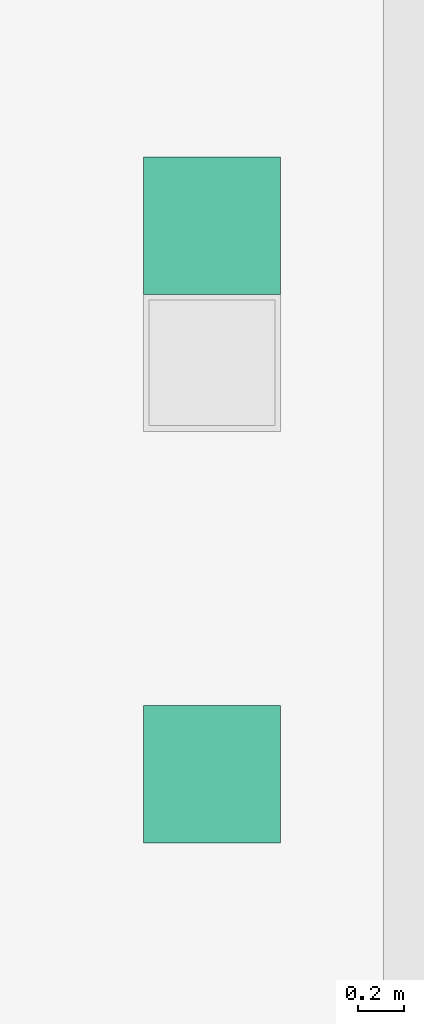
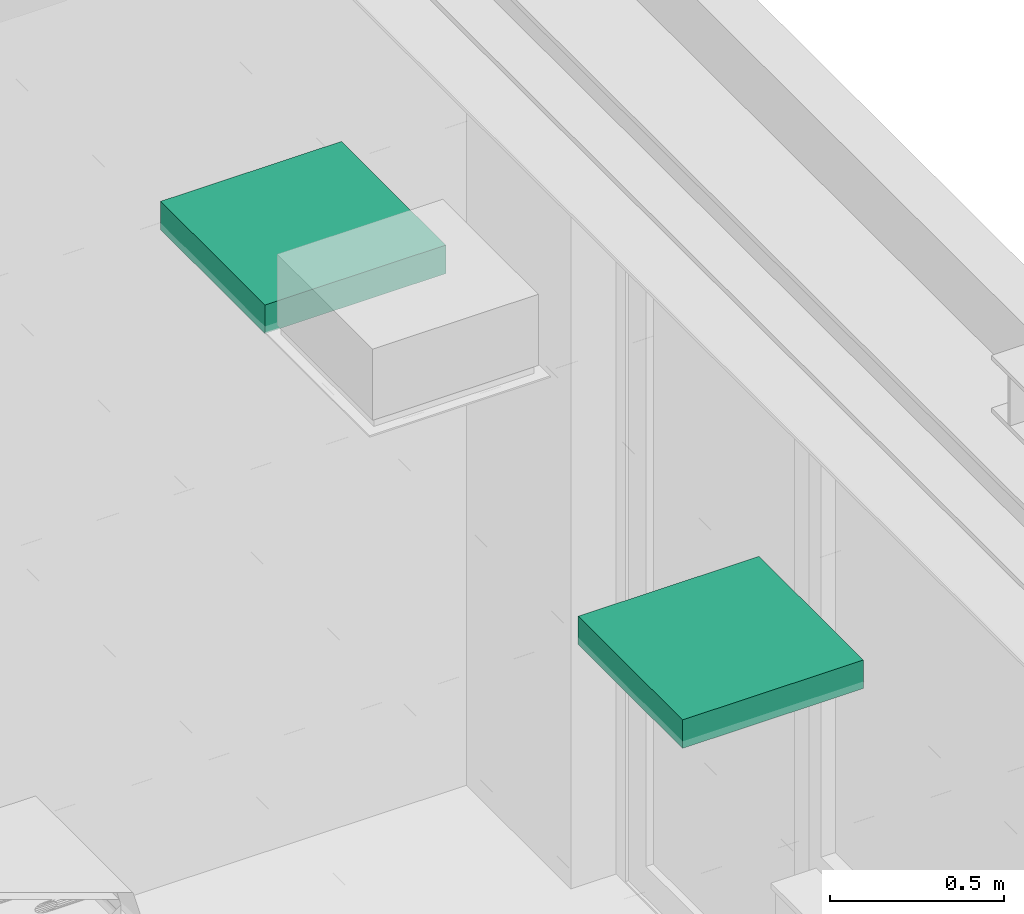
# One storey, part 273 of 347: 2 flow terminals.
"""IFC2X3 building model written with IfcOpenShell, lengths in millimetres."""

from ifc_helpers import new_model, entity, si_unit, converted_unit, derived_unit, money_unit, direction, frame, origin_with_axes, place, context, subcontext, project, spatial, open_shell, faceted_brep, surface_model, source, transform, mapped, type_object, type_shapes, element, save


model = new_model("IFC2X3")

# Units and contexts
model_context = context("Model", 3, precision=0.01, world=origin_with_axes(), true_north=direction((0.0, 1.0)))
plan_context = context("Plan", 3, precision=0.01, world=origin_with_axes(), true_north=direction((0.0, 1.0)))
body_context = subcontext(model_context, "Body", "Model", "MODEL_VIEW")
ifc_project = project(units=[si_unit("LENGTHUNIT", "METRE", prefix="MILLI"), si_unit("AREAUNIT", "SQUARE_METRE"), si_unit("VOLUMEUNIT", "CUBIC_METRE"), converted_unit("PLANEANGLEUNIT", "DEGREE", entity("IfcPlaneAngleMeasure", 0.0174532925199), si_unit("PLANEANGLEUNIT", "RADIAN"), dimensions=[0, 0, 0, 0, 0, 0, 0]), money_unit("EUR"), converted_unit("TIMEUNIT", "Year", entity("IfcTimeMeasure", 31556926.0), si_unit("TIMEUNIT", "SECOND"), dimensions=[0, 0, 1, 0, 0, 0, 0]), si_unit("MASSUNIT", "GRAM", prefix="KILO"), si_unit("THERMODYNAMICTEMPERATUREUNIT", "DEGREE_CELSIUS"), si_unit("LUMINOUSINTENSITYUNIT", "LUMEN"), si_unit("ENERGYUNIT", "JOULE", prefix="MEGA"), derived_unit("THERMALCONDUCTANCEUNIT", [(si_unit("POWERUNIT", "WATT"), 1), (si_unit("LENGTHUNIT", "METRE"), -1), (si_unit("THERMODYNAMICTEMPERATUREUNIT", "KELVIN"), -1)]), derived_unit("SPECIFICHEATCAPACITYUNIT", [(si_unit("ENERGYUNIT", "JOULE"), 1), (si_unit("MASSUNIT", "GRAM", prefix="KILO"), -1), (si_unit("THERMODYNAMICTEMPERATUREUNIT", "KELVIN"), -1)]), derived_unit("MASSDENSITYUNIT", [(si_unit("MASSUNIT", "GRAM", prefix="KILO"), 1), (si_unit("VOLUMEUNIT", "CUBIC_METRE"), -1)])], contexts=[model_context, plan_context])

# Site, building, storey
site_placement = place(None, origin_with_axes())
site = spatial("IfcSite", under=ifc_project, at=site_placement, Name="Site", CompositionType="ELEMENT")
building_placement = place(site_placement, origin_with_axes())
building = spatial("IfcBuilding", under=site, at=building_placement, Name="Naam gebouw", CompositionType="ELEMENT")
storey_placement = place(building_placement, origin_with_axes())
storey = spatial("IfcBuildingStorey", under=building, at=storey_placement, Name="begane grond", CompositionType="ELEMENT", Elevation=0.0)

# Flow terminals
lamp_type = type_object("IfcLampType", Name="TL plafond 25", PredefinedType="NOTDEFINED")
shared_shape = source(origin_with_axes(), body_context, "Body", "SurfaceModel", [
    faceted_brep([(0.0, 0.0, -100.0), (600.0, 0.0, -100.0), (600.0, 0.0, 0.0), (0.0, 0.0, 0.0), (0.0, 600.0, -100.0), (600.0, 600.0, -100.0), (40.0, 40.0, -100.0), (560.0, 40.0, -100.0), (560.0, 560.0, -100.0), (40.0, 560.0, -100.0), (600.0, 600.0, 0.0), (0.0, 600.0, 0.0), (40.0, 40.0, 0.0), (40.0, 560.0, 0.0), (560.0, 560.0, 0.0), (560.0, 40.0, 0.0)], [[[0, 1, 2, 3]], [[0, 4, 5, 1], [6, 7, 8, 9]], [[1, 5, 10, 2]], [[3, 2, 10, 11], [12, 13, 14, 15]], [[4, 0, 3, 11]], [[5, 4, 11, 10]], [[7, 6, 12, 15]], [[8, 7, 15, 14]], [[9, 8, 14, 13]], [[6, 9, 13, 12]]]),
    faceted_brep([(40.0, 40.0, -16.3333333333), (560.0, 40.0, -16.3333333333), (560.0, 40.0, 0.0), (40.0, 40.0, 0.0), (40.0, 560.0, -16.3333333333), (560.0, 560.0, -16.3333333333), (560.0, 560.0, 0.0), (40.0, 560.0, 0.0)], [[[0, 1, 2, 3]], [[0, 4, 5, 1]], [[1, 5, 6, 2]], [[3, 2, 6, 7]], [[4, 0, 3, 7]], [[5, 4, 7, 6]]]),
    surface_model("IfcShellBasedSurfaceModel", [(559.0, 41.0, -100.0), (40.0, 41.0, -100.0), (40.0, 559.0, -100.0), (559.0, 559.0, -100.0)], [open_shell([[[0, 1, 2, 3]]])]),
    faceted_brep([(40.0, 40.0, -100.0), (560.0, 40.0, -100.0), (560.0, 40.0, -60.0), (40.0, 40.0, -60.0), (40.0, 560.0, -100.0), (560.0, 560.0, -100.0), (41.0, 41.0, -100.0), (559.0, 41.0, -100.0), (559.0, 559.0, -100.0), (41.0, 559.0, -100.0), (560.0, 560.0, -60.0), (40.0, 560.0, -60.0), (41.0, 41.0, -60.0), (41.0, 559.0, -60.0), (559.0, 559.0, -60.0), (559.0, 41.0, -60.0)], [[[0, 1, 2, 3]], [[0, 4, 5, 1], [6, 7, 8, 9]], [[1, 5, 10, 2]], [[3, 2, 10, 11], [12, 13, 14, 15]], [[4, 0, 3, 11]], [[5, 4, 11, 10]], [[7, 6, 12, 15]], [[8, 7, 15, 14]], [[9, 8, 14, 13]], [[6, 9, 13, 12]]]),
    faceted_brep([(40.0, 144.0, -48.3333333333), (40.0, 149.740251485, -47.191526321), (560.0, 149.740251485, -47.191526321), (560.0, 144.0, -48.3333333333), (40.0, 138.259748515, -47.191526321), (40.0, 133.393398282, -43.9399350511), (40.0, 130.141807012, -39.0735848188), (40.0, 129.0, -33.3333333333), (40.0, 130.141807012, -27.5930818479), (40.0, 133.393398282, -22.7267316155), (40.0, 138.259748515, -19.4751403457), (40.0, 144.0, -18.3333333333), (40.0, 149.740251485, -19.4751403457), (40.0, 154.606601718, -22.7267316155), (40.0, 157.858192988, -27.5930818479), (40.0, 159.0, -33.3333333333), (40.0, 157.858192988, -39.0735848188), (40.0, 154.606601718, -43.9399350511), (40.0, 144.0, -46.3333333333), (40.0, 148.974884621, -45.343767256), (40.0, 153.192388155, -42.5257214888), (40.0, 156.010433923, -38.3082179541), (40.0, 157.0, -33.3333333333), (40.0, 156.010433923, -28.3584487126), (40.0, 153.192388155, -24.1409451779), (40.0, 148.974884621, -21.3228994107), (40.0, 144.0, -20.3333333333), (40.0, 139.025115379, -21.3228994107), (40.0, 134.807611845, -24.1409451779), (40.0, 131.989566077, -28.3584487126), (40.0, 131.0, -33.3333333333), (40.0, 131.989566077, -38.3082179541), (40.0, 134.807611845, -42.5257214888), (40.0, 139.025115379, -45.343767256), (560.0, 154.606601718, -43.9399350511), (560.0, 157.858192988, -39.0735848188), (560.0, 159.0, -33.3333333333), (560.0, 157.858192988, -27.5930818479), (560.0, 154.606601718, -22.7267316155), (560.0, 149.740251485, -19.4751403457), (560.0, 144.0, -18.3333333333), (560.0, 138.259748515, -19.4751403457), (560.0, 133.393398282, -22.7267316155), (560.0, 130.141807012, -27.5930818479), (560.0, 129.0, -33.3333333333), (560.0, 130.141807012, -39.0735848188), (560.0, 133.393398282, -43.9399350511), (560.0, 138.259748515, -47.191526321), (560.0, 144.0, -46.3333333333), (560.0, 139.025115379, -45.343767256), (560.0, 134.807611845, -42.5257214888), (560.0, 131.989566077, -38.3082179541), (560.0, 131.0, -33.3333333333), (560.0, 131.989566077, -28.3584487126), (560.0, 134.807611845, -24.1409451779), (560.0, 139.025115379, -21.3228994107), (560.0, 144.0, -20.3333333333), (560.0, 148.974884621, -21.3228994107), (560.0, 153.192388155, -24.1409451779), (560.0, 156.010433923, -28.3584487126), (560.0, 157.0, -33.3333333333), (560.0, 156.010433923, -38.3082179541), (560.0, 153.192388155, -42.5257214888), (560.0, 148.974884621, -45.343767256)], [[[0, 1, 2, 3]], [[0, 4, 5, 6, 7, 8, 9, 10, 11, 12, 13, 14, 15, 16, 17, 1], [18, 19, 20, 21, 22, 23, 24, 25, 26, 27, 28, 29, 30, 31, 32, 33]], [[1, 17, 34, 2]], [[3, 2, 34, 35, 36, 37, 38, 39, 40, 41, 42, 43, 44, 45, 46, 47], [48, 49, 50, 51, 52, 53, 54, 55, 56, 57, 58, 59, 60, 61, 62, 63]], [[4, 0, 3, 47]], [[5, 4, 47, 46]], [[6, 5, 46, 45]], [[7, 6, 45, 44]], [[8, 7, 44, 43]], [[9, 8, 43, 42]], [[10, 9, 42, 41]], [[11, 10, 41, 40]], [[12, 11, 40, 39]], [[13, 12, 39, 38]], [[14, 13, 38, 37]], [[15, 14, 37, 36]], [[16, 15, 36, 35]], [[17, 16, 35, 34]], [[19, 18, 48, 63]], [[20, 19, 63, 62]], [[21, 20, 62, 61]], [[22, 21, 61, 60]], [[23, 22, 60, 59]], [[24, 23, 59, 58]], [[25, 24, 58, 57]], [[26, 25, 57, 56]], [[27, 26, 56, 55]], [[28, 27, 55, 54]], [[29, 28, 54, 53]], [[30, 29, 53, 52]], [[31, 30, 52, 51]], [[32, 31, 51, 50]], [[33, 32, 50, 49]], [[18, 33, 49, 48]]]),
    faceted_brep([(40.0, 248.0, -48.3333333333), (40.0, 253.740251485, -47.191526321), (560.0, 253.740251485, -47.191526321), (560.0, 248.0, -48.3333333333), (40.0, 242.259748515, -47.191526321), (40.0, 237.393398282, -43.9399350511), (40.0, 234.141807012, -39.0735848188), (40.0, 233.0, -33.3333333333), (40.0, 234.141807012, -27.5930818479), (40.0, 237.393398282, -22.7267316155), (40.0, 242.259748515, -19.4751403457), (40.0, 248.0, -18.3333333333), (40.0, 253.740251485, -19.4751403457), (40.0, 258.606601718, -22.7267316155), (40.0, 261.858192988, -27.5930818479), (40.0, 263.0, -33.3333333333), (40.0, 261.858192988, -39.0735848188), (40.0, 258.606601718, -43.9399350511), (40.0, 248.0, -46.3333333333), (40.0, 252.974884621, -45.343767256), (40.0, 257.192388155, -42.5257214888), (40.0, 260.010433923, -38.3082179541), (40.0, 261.0, -33.3333333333), (40.0, 260.010433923, -28.3584487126), (40.0, 257.192388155, -24.1409451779), (40.0, 252.974884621, -21.3228994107), (40.0, 248.0, -20.3333333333), (40.0, 243.025115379, -21.3228994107), (40.0, 238.807611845, -24.1409451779), (40.0, 235.989566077, -28.3584487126), (40.0, 235.0, -33.3333333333), (40.0, 235.989566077, -38.3082179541), (40.0, 238.807611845, -42.5257214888), (40.0, 243.025115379, -45.343767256), (560.0, 258.606601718, -43.9399350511), (560.0, 261.858192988, -39.0735848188), (560.0, 263.0, -33.3333333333), (560.0, 261.858192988, -27.5930818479), (560.0, 258.606601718, -22.7267316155), (560.0, 253.740251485, -19.4751403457), (560.0, 248.0, -18.3333333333), (560.0, 242.259748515, -19.4751403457), (560.0, 237.393398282, -22.7267316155), (560.0, 234.141807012, -27.5930818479), (560.0, 233.0, -33.3333333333), (560.0, 234.141807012, -39.0735848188), (560.0, 237.393398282, -43.9399350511), (560.0, 242.259748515, -47.191526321), (560.0, 248.0, -46.3333333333), (560.0, 243.025115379, -45.343767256), (560.0, 238.807611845, -42.5257214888), (560.0, 235.989566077, -38.3082179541), (560.0, 235.0, -33.3333333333), (560.0, 235.989566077, -28.3584487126), (560.0, 238.807611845, -24.1409451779), (560.0, 243.025115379, -21.3228994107), (560.0, 248.0, -20.3333333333), (560.0, 252.974884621, -21.3228994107), (560.0, 257.192388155, -24.1409451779), (560.0, 260.010433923, -28.3584487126), (560.0, 261.0, -33.3333333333), (560.0, 260.010433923, -38.3082179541), (560.0, 257.192388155, -42.5257214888), (560.0, 252.974884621, -45.343767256)], [[[0, 1, 2, 3]], [[0, 4, 5, 6, 7, 8, 9, 10, 11, 12, 13, 14, 15, 16, 17, 1], [18, 19, 20, 21, 22, 23, 24, 25, 26, 27, 28, 29, 30, 31, 32, 33]], [[1, 17, 34, 2]], [[3, 2, 34, 35, 36, 37, 38, 39, 40, 41, 42, 43, 44, 45, 46, 47], [48, 49, 50, 51, 52, 53, 54, 55, 56, 57, 58, 59, 60, 61, 62, 63]], [[4, 0, 3, 47]], [[5, 4, 47, 46]], [[6, 5, 46, 45]], [[7, 6, 45, 44]], [[8, 7, 44, 43]], [[9, 8, 43, 42]], [[10, 9, 42, 41]], [[11, 10, 41, 40]], [[12, 11, 40, 39]], [[13, 12, 39, 38]], [[14, 13, 38, 37]], [[15, 14, 37, 36]], [[16, 15, 36, 35]], [[17, 16, 35, 34]], [[19, 18, 48, 63]], [[20, 19, 63, 62]], [[21, 20, 62, 61]], [[22, 21, 61, 60]], [[23, 22, 60, 59]], [[24, 23, 59, 58]], [[25, 24, 58, 57]], [[26, 25, 57, 56]], [[27, 26, 56, 55]], [[28, 27, 55, 54]], [[29, 28, 54, 53]], [[30, 29, 53, 52]], [[31, 30, 52, 51]], [[32, 31, 51, 50]], [[33, 32, 50, 49]], [[18, 33, 49, 48]]]),
    faceted_brep([(40.0, 352.0, -48.3333333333), (40.0, 357.740251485, -47.191526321), (560.0, 357.740251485, -47.191526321), (560.0, 352.0, -48.3333333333), (40.0, 346.259748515, -47.191526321), (40.0, 341.393398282, -43.9399350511), (40.0, 338.141807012, -39.0735848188), (40.0, 337.0, -33.3333333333), (40.0, 338.141807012, -27.5930818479), (40.0, 341.393398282, -22.7267316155), (40.0, 346.259748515, -19.4751403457), (40.0, 352.0, -18.3333333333), (40.0, 357.740251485, -19.4751403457), (40.0, 362.606601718, -22.7267316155), (40.0, 365.858192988, -27.5930818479), (40.0, 367.0, -33.3333333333), (40.0, 365.858192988, -39.0735848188), (40.0, 362.606601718, -43.9399350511), (40.0, 352.0, -46.3333333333), (40.0, 356.974884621, -45.343767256), (40.0, 361.192388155, -42.5257214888), (40.0, 364.010433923, -38.3082179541), (40.0, 365.0, -33.3333333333), (40.0, 364.010433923, -28.3584487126), (40.0, 361.192388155, -24.1409451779), (40.0, 356.974884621, -21.3228994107), (40.0, 352.0, -20.3333333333), (40.0, 347.025115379, -21.3228994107), (40.0, 342.807611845, -24.1409451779), (40.0, 339.989566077, -28.3584487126), (40.0, 339.0, -33.3333333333), (40.0, 339.989566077, -38.3082179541), (40.0, 342.807611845, -42.5257214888), (40.0, 347.025115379, -45.343767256), (560.0, 362.606601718, -43.9399350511), (560.0, 365.858192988, -39.0735848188), (560.0, 367.0, -33.3333333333), (560.0, 365.858192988, -27.5930818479), (560.0, 362.606601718, -22.7267316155), (560.0, 357.740251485, -19.4751403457), (560.0, 352.0, -18.3333333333), (560.0, 346.259748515, -19.4751403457), (560.0, 341.393398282, -22.7267316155), (560.0, 338.141807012, -27.5930818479), (560.0, 337.0, -33.3333333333), (560.0, 338.141807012, -39.0735848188), (560.0, 341.393398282, -43.9399350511), (560.0, 346.259748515, -47.191526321), (560.0, 352.0, -46.3333333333), (560.0, 347.025115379, -45.343767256), (560.0, 342.807611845, -42.5257214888), (560.0, 339.989566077, -38.3082179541), (560.0, 339.0, -33.3333333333), (560.0, 339.989566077, -28.3584487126), (560.0, 342.807611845, -24.1409451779), (560.0, 347.025115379, -21.3228994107), (560.0, 352.0, -20.3333333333), (560.0, 356.974884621, -21.3228994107), (560.0, 361.192388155, -24.1409451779), (560.0, 364.010433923, -28.3584487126), (560.0, 365.0, -33.3333333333), (560.0, 364.010433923, -38.3082179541), (560.0, 361.192388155, -42.5257214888), (560.0, 356.974884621, -45.343767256)], [[[0, 1, 2, 3]], [[0, 4, 5, 6, 7, 8, 9, 10, 11, 12, 13, 14, 15, 16, 17, 1], [18, 19, 20, 21, 22, 23, 24, 25, 26, 27, 28, 29, 30, 31, 32, 33]], [[1, 17, 34, 2]], [[3, 2, 34, 35, 36, 37, 38, 39, 40, 41, 42, 43, 44, 45, 46, 47], [48, 49, 50, 51, 52, 53, 54, 55, 56, 57, 58, 59, 60, 61, 62, 63]], [[4, 0, 3, 47]], [[5, 4, 47, 46]], [[6, 5, 46, 45]], [[7, 6, 45, 44]], [[8, 7, 44, 43]], [[9, 8, 43, 42]], [[10, 9, 42, 41]], [[11, 10, 41, 40]], [[12, 11, 40, 39]], [[13, 12, 39, 38]], [[14, 13, 38, 37]], [[15, 14, 37, 36]], [[16, 15, 36, 35]], [[17, 16, 35, 34]], [[19, 18, 48, 63]], [[20, 19, 63, 62]], [[21, 20, 62, 61]], [[22, 21, 61, 60]], [[23, 22, 60, 59]], [[24, 23, 59, 58]], [[25, 24, 58, 57]], [[26, 25, 57, 56]], [[27, 26, 56, 55]], [[28, 27, 55, 54]], [[29, 28, 54, 53]], [[30, 29, 53, 52]], [[31, 30, 52, 51]], [[32, 31, 51, 50]], [[33, 32, 50, 49]], [[18, 33, 49, 48]]]),
    faceted_brep([(40.0, 456.0, -48.3333333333), (40.0, 461.740251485, -47.191526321), (560.0, 461.740251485, -47.191526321), (560.0, 456.0, -48.3333333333), (40.0, 450.259748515, -47.191526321), (40.0, 445.393398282, -43.9399350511), (40.0, 442.141807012, -39.0735848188), (40.0, 441.0, -33.3333333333), (40.0, 442.141807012, -27.5930818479), (40.0, 445.393398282, -22.7267316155), (40.0, 450.259748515, -19.4751403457), (40.0, 456.0, -18.3333333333), (40.0, 461.740251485, -19.4751403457), (40.0, 466.606601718, -22.7267316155), (40.0, 469.858192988, -27.5930818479), (40.0, 471.0, -33.3333333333), (40.0, 469.858192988, -39.0735848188), (40.0, 466.606601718, -43.9399350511), (40.0, 456.0, -46.3333333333), (40.0, 460.974884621, -45.343767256), (40.0, 465.192388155, -42.5257214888), (40.0, 468.010433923, -38.3082179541), (40.0, 469.0, -33.3333333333), (40.0, 468.010433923, -28.3584487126), (40.0, 465.192388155, -24.1409451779), (40.0, 460.974884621, -21.3228994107), (40.0, 456.0, -20.3333333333), (40.0, 451.025115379, -21.3228994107), (40.0, 446.807611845, -24.1409451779), (40.0, 443.989566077, -28.3584487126), (40.0, 443.0, -33.3333333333), (40.0, 443.989566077, -38.3082179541), (40.0, 446.807611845, -42.5257214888), (40.0, 451.025115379, -45.343767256), (560.0, 466.606601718, -43.9399350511), (560.0, 469.858192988, -39.0735848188), (560.0, 471.0, -33.3333333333), (560.0, 469.858192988, -27.5930818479), (560.0, 466.606601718, -22.7267316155), (560.0, 461.740251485, -19.4751403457), (560.0, 456.0, -18.3333333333), (560.0, 450.259748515, -19.4751403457), (560.0, 445.393398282, -22.7267316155), (560.0, 442.141807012, -27.5930818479), (560.0, 441.0, -33.3333333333), (560.0, 442.141807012, -39.0735848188), (560.0, 445.393398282, -43.9399350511), (560.0, 450.259748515, -47.191526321), (560.0, 456.0, -46.3333333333), (560.0, 451.025115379, -45.343767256), (560.0, 446.807611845, -42.5257214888), (560.0, 443.989566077, -38.3082179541), (560.0, 443.0, -33.3333333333), (560.0, 443.989566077, -28.3584487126), (560.0, 446.807611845, -24.1409451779), (560.0, 451.025115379, -21.3228994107), (560.0, 456.0, -20.3333333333), (560.0, 460.974884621, -21.3228994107), (560.0, 465.192388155, -24.1409451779), (560.0, 468.010433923, -28.3584487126), (560.0, 469.0, -33.3333333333), (560.0, 468.010433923, -38.3082179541), (560.0, 465.192388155, -42.5257214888), (560.0, 460.974884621, -45.343767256)], [[[0, 1, 2, 3]], [[0, 4, 5, 6, 7, 8, 9, 10, 11, 12, 13, 14, 15, 16, 17, 1], [18, 19, 20, 21, 22, 23, 24, 25, 26, 27, 28, 29, 30, 31, 32, 33]], [[1, 17, 34, 2]], [[3, 2, 34, 35, 36, 37, 38, 39, 40, 41, 42, 43, 44, 45, 46, 47], [48, 49, 50, 51, 52, 53, 54, 55, 56, 57, 58, 59, 60, 61, 62, 63]], [[4, 0, 3, 47]], [[5, 4, 47, 46]], [[6, 5, 46, 45]], [[7, 6, 45, 44]], [[8, 7, 44, 43]], [[9, 8, 43, 42]], [[10, 9, 42, 41]], [[11, 10, 41, 40]], [[12, 11, 40, 39]], [[13, 12, 39, 38]], [[14, 13, 38, 37]], [[15, 14, 37, 36]], [[16, 15, 36, 35]], [[17, 16, 35, 34]], [[19, 18, 48, 63]], [[20, 19, 63, 62]], [[21, 20, 62, 61]], [[22, 21, 61, 60]], [[23, 22, 60, 59]], [[24, 23, 59, 58]], [[25, 24, 58, 57]], [[26, 25, 57, 56]], [[27, 26, 56, 55]], [[28, 27, 55, 54]], [[29, 28, 54, 53]], [[30, 29, 53, 52]], [[31, 30, 52, 51]], [[32, 31, 51, 50]], [[33, 32, 50, 49]], [[18, 33, 49, 48]]]),
])
type_shapes(lamp_type, [shared_shape])
for number, where, z_axis, x_axis, name in (
    (1, (54225.0, 34137.5, 3295.0), (0.0, 0.0, 1.0), (1.0, 0.0, 0.0), "63_Lamp-x"),
    (2, (54225.0, 31737.5, 3295.0), (0.0, 0.0, 1.0), (1.0, 0.0, 0.0), "63_Lamp-x"),
):
    element("IfcFlowTerminal", number, at=place(storey_placement, frame(where, z_axis=z_axis, x_axis=x_axis)), inside=storey, type_object=lamp_type, Name=name, ObjectType="Lamp", context=body_context, shape_type="MappedRepresentation", body=[
        mapped(shared_shape, transform((0.0, 0.0, 0.0))),
    ])

save(model, "model.ifc")
